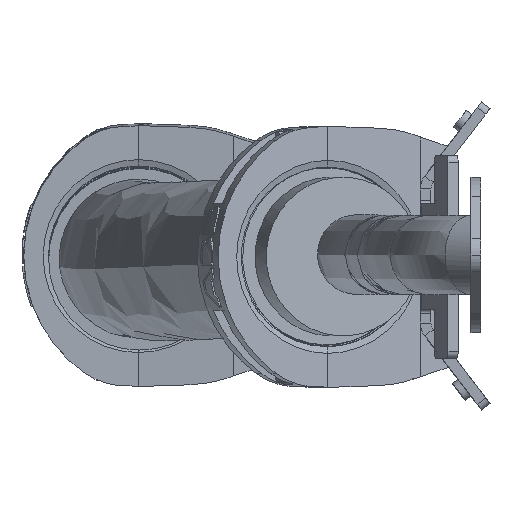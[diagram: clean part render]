
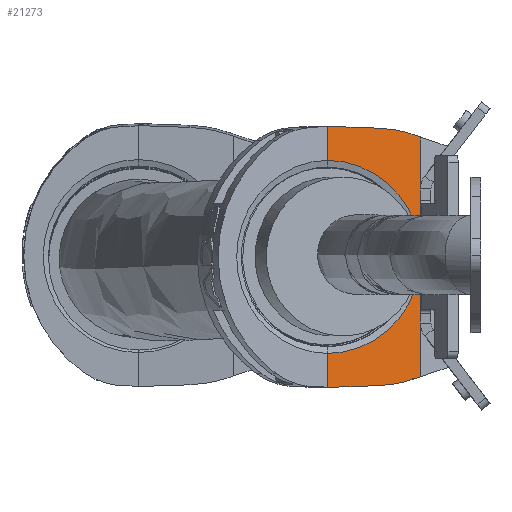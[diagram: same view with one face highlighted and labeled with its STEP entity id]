
A CAD part, left-side view. The second image highlights one B-rep face of the part: STEP entity #21273.
In plain terms, the highlighted planar face has unit normal (-0.974, -0.225, 0).
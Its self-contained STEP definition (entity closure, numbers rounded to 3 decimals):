
#234 = CARTESIAN_POINT ( 'NONE',  ( 1975.571, 183.808, 1920.308 ) ) ;
#474 = CARTESIAN_POINT ( 'NONE',  ( 1989.62, 122.955, 2076.919 ) ) ;
#503 = DIRECTION ( 'NONE',  ( 0.214, -0.925, -0.314 ) ) ;
#592 = EDGE_CURVE ( 'NONE', #10925, #3805, #1703, .T. ) ;
#1004 = VECTOR ( 'NONE', #19109, 1000. ) ;
#1293 = FACE_OUTER_BOUND ( 'NONE', #21122, .T. ) ;
#1487 = CARTESIAN_POINT ( 'NONE',  ( 1984.048, 147.091, 2081.933 ) ) ;
#1549 = DIRECTION ( 'NONE',  ( 0.974, 0.225, 0. ) ) ;
#1557 = ORIENTED_EDGE ( 'NONE', *, *, #3791, .F. ) ;
#1558 = EDGE_CURVE ( 'NONE', #11424, #10520, #12305, .T. ) ;
#1613 = CARTESIAN_POINT ( 'NONE',  ( 1977.465, 175.603, 1954.207 ) ) ;
#1703 = LINE ( 'NONE', #14974, #15337 ) ;
#1915 = VECTOR ( 'NONE', #15074, 1000. ) ;
#2423 = CARTESIAN_POINT ( 'NONE',  ( 1989.62, 122.955, 1908.954 ) ) ;
#2509 = VECTOR ( 'NONE', #4173, 1000. ) ;
#2700 = CARTESIAN_POINT ( 'NONE',  ( 1987.24, 133.261, 2080.421 ) ) ;
#3667 = DIRECTION ( 'NONE',  ( 0.214, -0.925, 0.314 ) ) ;
#3791 = EDGE_CURVE ( 'NONE', #7465, #18143, #19970, .T. ) ;
#3805 = VERTEX_POINT ( 'NONE', #1613 ) ;
#3809 = CARTESIAN_POINT ( 'NONE',  ( 1988.769, 126.64, 2078.171 ) ) ;
#4077 = EDGE_CURVE ( 'NONE', #7441, #5603, #15375, .T. ) ;
#4173 = DIRECTION ( 'NONE',  ( 0., 0., 1. ) ) ;
#4371 = DIRECTION ( 'NONE',  ( -0.225, 0.974, 0. ) ) ;
#4402 = EDGE_CURVE ( 'NONE', #10925, #18033, #21663, .T. ) ;
#5603 = VERTEX_POINT ( 'NONE', #9784 ) ;
#5736 = ORIENTED_EDGE ( 'NONE', *, *, #16437, .T. ) ;
#6531 = EDGE_CURVE ( 'NONE', #18143, #11424, #14651, .T. ) ;
#7038 = CARTESIAN_POINT ( 'NONE',  ( 1988.768, 126.644, 1939.736 ) ) ;
#7062 = ORIENTED_EDGE ( 'NONE', *, *, #19250, .F. ) ;
#7264 = CARTESIAN_POINT ( 'NONE',  ( 1977.465, 175.603, 1934.954 ) ) ;
#7441 = VERTEX_POINT ( 'NONE', #7038 ) ;
#7465 = VERTEX_POINT ( 'NONE', #16122 ) ;
#7680 = CARTESIAN_POINT ( 'NONE',  ( 1976.417, 180.144, 1908.954 ) ) ;
#8144 = DIRECTION ( 'NONE',  ( -0.225, 0.974, 0. ) ) ;
#8183 = EDGE_CURVE ( 'NONE', #5603, #10520, #14129, .T. ) ;
#8629 = AXIS2_PLACEMENT_3D ( 'NONE', #11676, #1549, #8144 ) ;
#9460 = PLANE ( 'NONE',  #10584 ) ;
#9784 = CARTESIAN_POINT ( 'NONE',  ( 1989.62, 122.955, 1940.99 ) ) ;
#10520 = VERTEX_POINT ( 'NONE', #474 ) ;
#10584 = AXIS2_PLACEMENT_3D ( 'NONE', #7680, #19538, #4371 ) ;
#10797 = CARTESIAN_POINT ( 'NONE',  ( 1987.24, 133.261, 1937.487 ) ) ;
#10899 = ORIENTED_EDGE ( 'NONE', *, *, #1558, .F. ) ;
#10925 = VERTEX_POINT ( 'NONE', #17349 ) ;
#10969 = ORIENTED_EDGE ( 'NONE', *, *, #6531, .F. ) ;
#11132 = CIRCLE ( 'NONE', #8629, 54.752 ) ;
#11136 = VECTOR ( 'NONE', #503, 1000. ) ;
#11424 = VERTEX_POINT ( 'NONE', #21831 ) ;
#11489 = CARTESIAN_POINT ( 'NONE',  ( 1976.214, 181.022, 1934.76 ) ) ;
#11546 = CARTESIAN_POINT ( 'NONE',  ( 1977.48, 175.539, 2082.952 ) ) ;
#11676 = CARTESIAN_POINT ( 'NONE',  ( 1977.303, 176.304, 2008.954 ) ) ;
#11694 = DIRECTION ( 'NONE',  ( 0.225, -0.974, 0.035 ) ) ;
#12305 = LINE ( 'NONE', #3809, #11136 ) ;
#13775 = ORIENTED_EDGE ( 'NONE', *, *, #592, .F. ) ;
#14129 = LINE ( 'NONE', #2423, #2509 ) ;
#14394 = CARTESIAN_POINT ( 'NONE',  ( 1985.656, 140.124, 2081.683 ) ) ;
#14651 =( BOUNDED_CURVE ( )  B_SPLINE_CURVE ( 3, ( #1487, #14394, #2700, #21252 ),
 .UNSPECIFIED., .F., .F. ) 
 B_SPLINE_CURVE_WITH_KNOTS ( ( 4, 4 ),
 ( 1.606, 1.891 ),
 .UNSPECIFIED. ) 
 CURVE ( )  GEOMETRIC_REPRESENTATION_ITEM ( )  RATIONAL_B_SPLINE_CURVE ( ( 1., 0.993, 0.993, 1. ) ) 
 REPRESENTATION_ITEM ( '' )  );
#14974 = CARTESIAN_POINT ( 'NONE',  ( 1977.465, 175.603, 1934.954 ) ) ;
#15074 = DIRECTION ( 'NONE',  ( 0.225, -0.974, -0.035 ) ) ;
#15337 = VECTOR ( 'NONE', #20152, 1000. ) ;
#15375 = LINE ( 'NONE', #234, #19160 ) ;
#15781 = CARTESIAN_POINT ( 'NONE',  ( 1985.656, 140.124, 1936.225 ) ) ;
#16122 = CARTESIAN_POINT ( 'NONE',  ( 1977.465, 175.603, 2082.954 ) ) ;
#16437 = EDGE_CURVE ( 'NONE', #18033, #7441, #16762, .T. ) ;
#16445 = CARTESIAN_POINT ( 'NONE',  ( 1977.465, 175.603, 2063.702 ) ) ;
#16762 =( BOUNDED_CURVE ( )  B_SPLINE_CURVE ( 3, ( #17219, #15781, #10797, #20973 ),
 .UNSPECIFIED., .F., .F. ) 
 B_SPLINE_CURVE_WITH_KNOTS ( ( 4, 4 ),
 ( 1.606, 1.891 ),
 .UNSPECIFIED. ) 
 CURVE ( )  GEOMETRIC_REPRESENTATION_ITEM ( )  RATIONAL_B_SPLINE_CURVE ( ( 1., 0.993, 0.993, 1. ) ) 
 REPRESENTATION_ITEM ( '' )  );
#17110 = EDGE_CURVE ( 'NONE', #21749, #3805, #11132, .T. ) ;
#17185 = ORIENTED_EDGE ( 'NONE', *, *, #8183, .T. ) ;
#17219 = CARTESIAN_POINT ( 'NONE',  ( 1984.048, 147.091, 1935.975 ) ) ;
#17349 = CARTESIAN_POINT ( 'NONE',  ( 1977.465, 175.603, 1934.954 ) ) ;
#17505 = CARTESIAN_POINT ( 'NONE',  ( 1984.048, 147.091, 2081.933 ) ) ;
#18033 = VERTEX_POINT ( 'NONE', #18302 ) ;
#18143 = VERTEX_POINT ( 'NONE', #17505 ) ;
#18302 = CARTESIAN_POINT ( 'NONE',  ( 1984.048, 147.091, 1935.975 ) ) ;
#18931 = VECTOR ( 'NONE', #11694, 1000. ) ;
#19109 = DIRECTION ( 'NONE',  ( 0., 0., 1. ) ) ;
#19160 = VECTOR ( 'NONE', #3667, 1000. ) ;
#19250 = EDGE_CURVE ( 'NONE', #21749, #7465, #19451, .T. ) ;
#19451 = LINE ( 'NONE', #7264, #1004 ) ;
#19538 = DIRECTION ( 'NONE',  ( 0.974, 0.225, 0. ) ) ;
#19576 = ORIENTED_EDGE ( 'NONE', *, *, #4402, .T. ) ;
#19605 = ORIENTED_EDGE ( 'NONE', *, *, #17110, .T. ) ;
#19679 = ORIENTED_EDGE ( 'NONE', *, *, #4077, .T. ) ;
#19970 = LINE ( 'NONE', #11546, #1915 ) ;
#20152 = DIRECTION ( 'NONE',  ( 0., 0., 1. ) ) ;
#20973 = CARTESIAN_POINT ( 'NONE',  ( 1988.768, 126.644, 1939.736 ) ) ;
#21122 = EDGE_LOOP ( 'NONE', ( #17185, #10899, #10969, #1557, #7062, #19605, #13775, #19576, #5736, #19679 ) ) ;
#21252 = CARTESIAN_POINT ( 'NONE',  ( 1988.768, 126.644, 2078.172 ) ) ;
#21273 = ADVANCED_FACE ( 'NONE', ( #1293 ), #9460, .F. ) ;
#21663 = LINE ( 'NONE', #11489, #18931 ) ;
#21749 = VERTEX_POINT ( 'NONE', #16445 ) ;
#21831 = CARTESIAN_POINT ( 'NONE',  ( 1988.768, 126.644, 2078.172 ) ) ;
